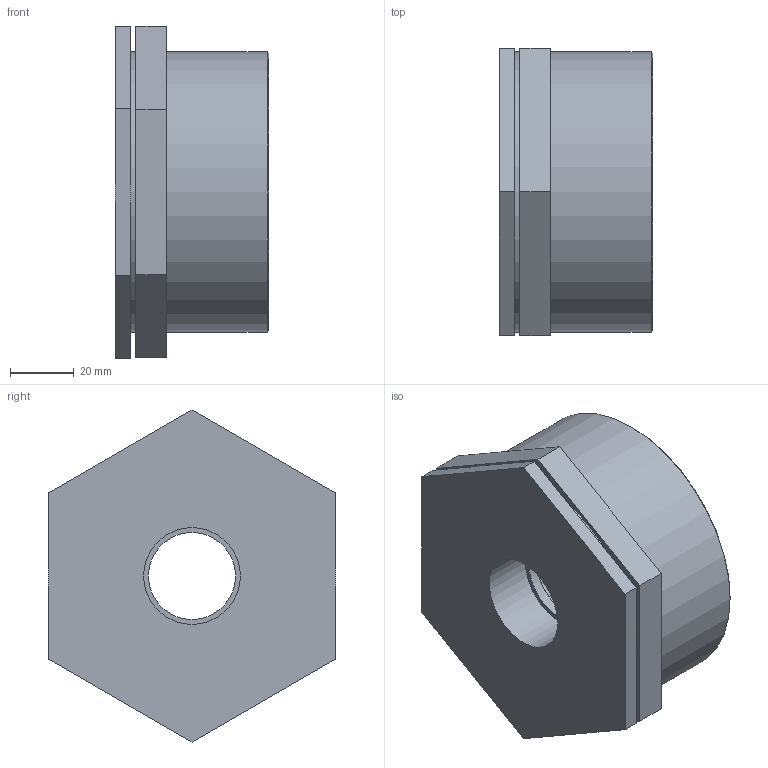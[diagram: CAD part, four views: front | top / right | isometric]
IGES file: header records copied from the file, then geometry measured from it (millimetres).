
Global section: file name: 050207030010_0502070300100A.ipt; native system: Autodesk Inventor 2015; preprocessor: unknown; author: KIM; date: 20170618.093144; units: millimetre
Bounding box: 48 x 90 x 103.92 mm (x, y, z)
Volume: 138373.6 mm3; surface area: 38249.2 mm2
Topology: 1 solids, 1 shells, 27 faces, 62 edges, 43 vertices
Faces by surface type: plane 20, revolution 4, cylinder 2, cone 1
Full cylindrical faces by diameter (mm): 87.884 x2
